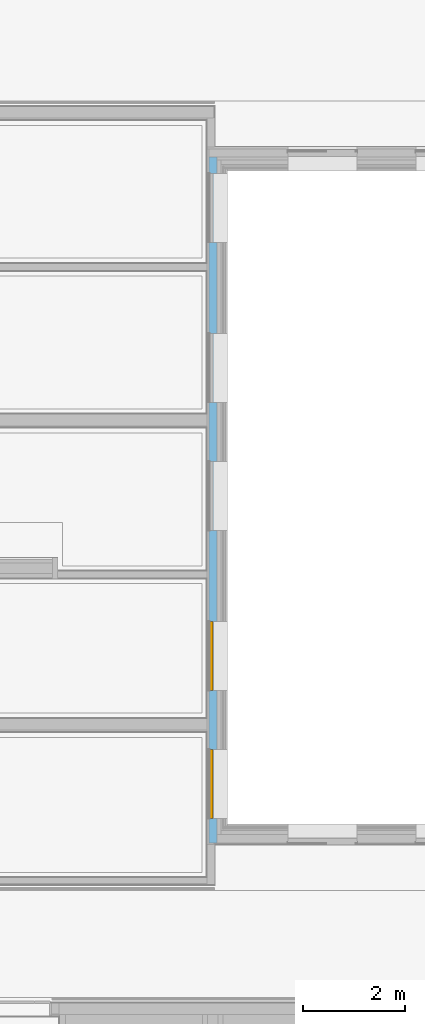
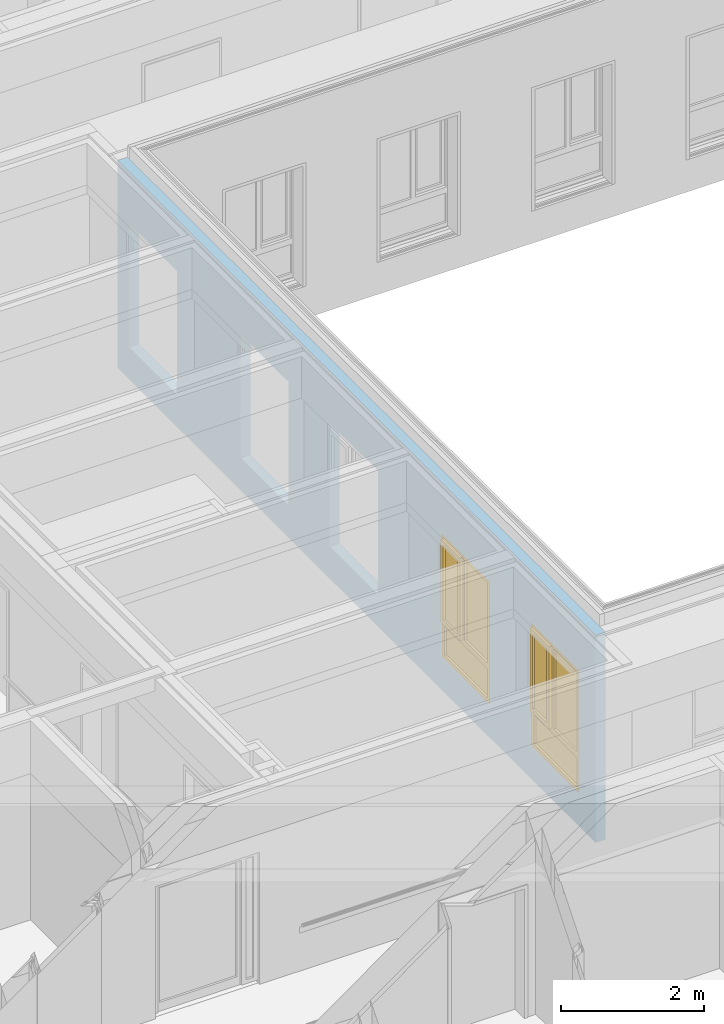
# One storey, part 70 of 222: 2 windows, 5 openings, plus 1 element that does not belong to this part.
"""IFC4 building model written with IfcOpenShell, lengths in metres."""

from ifc_helpers import new_model, entity, si_unit, converted_unit, derived_unit, frame, frame_2d, origin, origin_with_axes, place, context, subcontext, project, spatial, polyline, rectangle, outline, extrude, closed_shell, open_shell, surface_model, source, transform, mapped, material, element, fill, save


model = new_model("IFC4")

# Units and contexts
model_context = context("Model", 3, precision=1e-05, world=origin())
body_context = subcontext(model_context, "Body", "Model", "MODEL_VIEW")
ifc_project = project(units=[si_unit("LENGTHUNIT", "METRE"), si_unit("AREAUNIT", "SQUARE_METRE"), si_unit("VOLUMEUNIT", "CUBIC_METRE"), si_unit("MASSUNIT", "GRAM", prefix="KILO"), converted_unit("PLANEANGLEUNIT", "DEGREE", entity("IfcPlaneAngleMeasure", 0.0174532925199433), si_unit("PLANEANGLEUNIT", "RADIAN"), dimensions=[0, 0, 0, 0, 0, 0, 0]), derived_unit("THERMALTRANSMITTANCEUNIT", [(si_unit("POWERUNIT", "WATT"), 1), (si_unit("THERMODYNAMICTEMPERATUREUNIT", "KELVIN"), -1), (si_unit("LENGTHUNIT", "METRE"), -2)]), derived_unit("VOLUMETRICFLOWRATEUNIT", [(si_unit("LENGTHUNIT", "METRE"), 3), (converted_unit("TIMEUNIT", "hour", entity("IfcTimeMeasure", 3600.0), si_unit("TIMEUNIT", "SECOND"), dimensions=[0, 0, 1, 0, 0, 0, 0]), -1), (si_unit("LENGTHUNIT", "METRE"), -1)])], contexts=[model_context])

# Site, building, storey
site_placement = place(None, origin())
site = spatial("IfcSite", under=ifc_project, at=site_placement, Name="Psychiatrie Neubau Wunstorf", CompositionType="ELEMENT")
building_placement = place(site_placement, origin())
building = spatial("IfcBuilding", under=site, at=building_placement, Name="Neubau H2 Stationsgebäude", CompositionType="ELEMENT")
storey_placement = place(building_placement, frame((0.0, 0.0, 3.6)))
storey = spatial("IfcBuildingStorey", under=building, at=storey_placement, Name="H2 Ebene +1", CompositionType="ELEMENT", Elevation=3.6)

# Wall, openings, windows
ifc_material = material(Name="WA-DL")
wall_placement = place(storey_placement, frame((15.675, 20.8416528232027, 0.0), z_axis=(0.0, 0.0, 1.0), x_axis=(-2.71660179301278e-16, -1.0, 0.0)))
wall = element("IfcWall", 1, at=wall_placement, inside=storey, material=ifc_material, context=body_context, shape_type="SweptSolid", body=[
    extrude(rectangle(XDim=13.3916528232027, YDim=0.16, at=frame_2d((6.69582641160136, 0.08), x_axis=(1.0, 0.0))), origin_with_axes(), (0.0, 0.0, 1.0), 3.55),
])
opening_1_placement = place(wall_placement, frame((4.79165282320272, 0.159999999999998, 0.55), z_axis=(0.0, -1.0, 0.0), x_axis=(0.0, 0.0, 1.0)))
element("IfcOpeningElement", 2, at=opening_1_placement, cuts=wall, Name="Fensteröffnung", ObjectType="Opening", context=body_context, shape_type="SweptSolid", body=[
    extrude(outline(polyline([(2.115, 1.35), (2.115, 0.0), (0.0, 0.0), (0.0, 1.35), (2.115, 1.35)])), origin_with_axes(), (0.0, 0.0, 1.0), 0.16),
])
opening_2_placement = place(wall_placement, frame((7.29165282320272, 0.16, 0.55), z_axis=(0.0, -1.0, 0.0), x_axis=(0.0, 0.0, 1.0)))
element("IfcOpeningElement", 3, at=opening_2_placement, cuts=wall, Name="Fensteröffnung", ObjectType="Opening", context=body_context, shape_type="SweptSolid", body=[
    extrude(outline(polyline([(2.115, 1.35), (2.115, 0.0), (0.0, 0.0), (0.0, 1.35), (2.115, 1.35)])), origin_with_axes(), (0.0, 0.0, 1.0), 0.16),
])
opening_3_placement = place(wall_placement, frame((1.66665282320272, 0.159999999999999, 0.55), z_axis=(0.0, -1.0, 0.0), x_axis=(0.0, 0.0, 1.0)))
element("IfcOpeningElement", 4, at=opening_3_placement, cuts=wall, Name="Fensteröffnung", ObjectType="Opening", context=body_context, shape_type="SweptSolid", body=[
    extrude(outline(polyline([(2.115, 1.35), (2.115, 0.0), (0.0, 0.0), (0.0, 1.35), (2.115, 1.35)])), origin_with_axes(), (0.0, 0.0, 1.0), 0.16),
])
opening_4_placement = place(wall_placement, frame((12.9166528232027, 0.16, 0.55), z_axis=(0.0, -1.0, 0.0), x_axis=(0.0, 0.0, 1.0)))
opening_4 = element("IfcOpeningElement", 5, at=opening_4_placement, cuts=wall, Name="Fensteröffnung", ObjectType="Opening", context=body_context, shape_type="SweptSolid", body=[
    extrude(outline(polyline([(2.115, 1.35), (2.115, 0.0), (0.0, 0.0), (0.0, 1.35), (2.115, 1.35)])), origin_with_axes(), (0.0, 0.0, 1.0), 0.16),
])
opening_5_placement = place(wall_placement, frame((10.4166528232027, 0.160000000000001, 0.55), z_axis=(0.0, -1.0, 0.0), x_axis=(0.0, 0.0, 1.0)))
opening_5 = element("IfcOpeningElement", 6, at=opening_5_placement, cuts=wall, Name="Fensteröffnung", ObjectType="Opening", context=body_context, shape_type="SweptSolid", body=[
    extrude(outline(polyline([(2.115, 1.35), (2.115, 0.0), (0.0, 0.0), (0.0, 1.35), (2.115, 1.35)])), origin_with_axes(), (0.0, 0.0, 1.0), 0.16),
])
shared_shape_1 = source(origin_with_axes(), body_context, "Body", "SurfaceModel", [
    surface_model("IfcShellBasedSurfaceModel", [(0.0, 0.0, 2.115), (0.0700000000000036, 0.0, 2.115), (0.0700000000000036, 0.0, 0.0), (0.0, 0.0, 0.0), (0.0, 0.0699999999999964, 0.0), (0.0700000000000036, 0.0699999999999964, 0.0), (0.0700000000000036, 0.0699999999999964, 2.115), (0.0, 0.0699999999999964, 2.115)], [closed_shell([[[0, 1, 2, 3]], [[4, 5, 6, 7]], [[3, 4, 7, 0]], [[2, 5, 4, 3]], [[1, 6, 5, 2]], [[0, 7, 6, 1]]], orient=[[False], [False], [False], [False], [False], [False]])]),
    surface_model("IfcShellBasedSurfaceModel", [(1.28, 0.0, 2.115), (1.35, 0.0, 2.115), (1.35, 0.0, 0.0), (1.28, 0.0, 0.0), (1.28, 0.0699999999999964, 0.0), (1.35, 0.0699999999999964, 0.0), (1.35, 0.0699999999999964, 2.115), (1.28, 0.0699999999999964, 2.115)], [closed_shell([[[0, 1, 2, 3]], [[4, 5, 6, 7]], [[3, 4, 7, 0]], [[2, 5, 4, 3]], [[1, 6, 5, 2]], [[0, 7, 6, 1]]], orient=[[False], [False], [False], [False], [False], [False]])]),
    surface_model("IfcShellBasedSurfaceModel", [(0.0700000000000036, 0.0, 0.07), (1.28, 0.0, 0.07), (1.28, 0.0, 0.0), (0.0700000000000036, 0.0, 0.0), (0.0700000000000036, 0.0699999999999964, 0.0), (1.28, 0.0699999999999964, 0.0), (1.28, 0.0699999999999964, 0.07), (0.0700000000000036, 0.0699999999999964, 0.07)], [closed_shell([[[0, 1, 2, 3]], [[4, 5, 6, 7]], [[3, 4, 7, 0]], [[2, 5, 4, 3]], [[1, 6, 5, 2]], [[0, 7, 6, 1]]], orient=[[False], [False], [False], [False], [False], [False]])]),
    surface_model("IfcShellBasedSurfaceModel", [(0.0700000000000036, 0.0, 2.115), (1.28, 0.0, 2.115), (1.28, 0.0, 2.045), (0.0700000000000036, 0.0, 2.045), (0.0700000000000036, 0.0699999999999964, 2.045), (1.28, 0.0699999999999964, 2.045), (1.28, 0.0699999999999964, 2.115), (0.0700000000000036, 0.0699999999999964, 2.115)], [closed_shell([[[0, 1, 2, 3]], [[4, 5, 6, 7]], [[3, 4, 7, 0]], [[2, 5, 4, 3]], [[1, 6, 5, 2]], [[0, 7, 6, 1]]], orient=[[False], [False], [False], [False], [False], [False]])]),
    surface_model("IfcShellBasedSurfaceModel", [(0.0700000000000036, 0.0, 0.67), (1.28, 0.0, 0.67), (1.28, 0.0, 0.57), (0.0700000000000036, 0.0, 0.57), (0.0700000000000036, 0.0699999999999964, 0.57), (1.28, 0.0699999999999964, 0.57), (1.28, 0.0699999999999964, 0.67), (0.0700000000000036, 0.0699999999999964, 0.67)], [closed_shell([[[0, 1, 2, 3]], [[4, 5, 6, 7]], [[3, 4, 7, 0]], [[2, 5, 4, 3]], [[1, 6, 5, 2]], [[0, 7, 6, 1]]], orient=[[False], [False], [False], [False], [False], [False]])]),
    surface_model("IfcShellBasedSurfaceModel", [(0.0700000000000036, 0.0349999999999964, 0.07), (0.0700000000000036, 0.0349999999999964, 0.57), (1.28, 0.0349999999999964, 0.57), (1.28, 0.0349999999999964, 0.07)], [open_shell([[[0, 1, 2, 3]]], orient=[[False]])]),
    surface_model("IfcShellBasedSurfaceModel", [(0.565700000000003, 0.0, 2.045), (0.635700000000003, 0.0, 2.045), (0.635700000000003, 0.0, 0.67), (0.565700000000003, 0.0, 0.67), (0.565700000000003, 0.0699999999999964, 0.67), (0.635700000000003, 0.0699999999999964, 0.67), (0.635700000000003, 0.0699999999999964, 2.045), (0.565700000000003, 0.0699999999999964, 2.045)], [closed_shell([[[0, 1, 2, 3]], [[4, 5, 6, 7]], [[3, 4, 7, 0]], [[2, 5, 4, 3]], [[1, 6, 5, 2]], [[0, 7, 6, 1]]], orient=[[False], [False], [False], [False], [False], [False]])]),
    surface_model("IfcShellBasedSurfaceModel", [(0.0500000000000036, -0.0500000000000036, 2.065), (0.120000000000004, -0.0500000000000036, 2.065), (0.120000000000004, -0.0500000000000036, 0.65), (0.0500000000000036, -0.0500000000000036, 0.65), (0.0500000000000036, 0.0199999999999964, 0.65), (0.120000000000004, 0.0199999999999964, 0.65), (0.120000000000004, 0.0199999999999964, 2.065), (0.0500000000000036, 0.0199999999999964, 2.065)], [closed_shell([[[0, 1, 2, 3]], [[4, 5, 6, 7]], [[3, 4, 7, 0]], [[2, 5, 4, 3]], [[1, 6, 5, 2]], [[0, 7, 6, 1]]], orient=[[False], [False], [False], [False], [False], [False]])]),
    surface_model("IfcShellBasedSurfaceModel", [(0.515700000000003, -0.0500000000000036, 2.065), (0.585700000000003, -0.0500000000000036, 2.065), (0.585700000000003, -0.0500000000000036, 0.65), (0.515700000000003, -0.0500000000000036, 0.65), (0.515700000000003, 0.0199999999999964, 0.65), (0.585700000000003, 0.0199999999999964, 0.65), (0.585700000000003, 0.0199999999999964, 2.065), (0.515700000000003, 0.0199999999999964, 2.065)], [closed_shell([[[0, 1, 2, 3]], [[4, 5, 6, 7]], [[3, 4, 7, 0]], [[2, 5, 4, 3]], [[1, 6, 5, 2]], [[0, 7, 6, 1]]], orient=[[False], [False], [False], [False], [False], [False]])]),
    surface_model("IfcShellBasedSurfaceModel", [(0.120000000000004, -0.0500000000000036, 0.72), (0.515700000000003, -0.0500000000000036, 0.72), (0.515700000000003, -0.0500000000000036, 0.65), (0.120000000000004, -0.0500000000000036, 0.65), (0.120000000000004, 0.0199999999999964, 0.65), (0.515700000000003, 0.0199999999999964, 0.65), (0.515700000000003, 0.0199999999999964, 0.72), (0.120000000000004, 0.0199999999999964, 0.72)], [closed_shell([[[0, 1, 2, 3]], [[4, 5, 6, 7]], [[3, 4, 7, 0]], [[2, 5, 4, 3]], [[1, 6, 5, 2]], [[0, 7, 6, 1]]], orient=[[False], [False], [False], [False], [False], [False]])]),
    surface_model("IfcShellBasedSurfaceModel", [(0.120000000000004, -0.0500000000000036, 2.065), (0.515700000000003, -0.0500000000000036, 2.065), (0.515700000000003, -0.0500000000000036, 1.995), (0.120000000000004, -0.0500000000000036, 1.995), (0.120000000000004, 0.0199999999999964, 1.995), (0.515700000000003, 0.0199999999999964, 1.995), (0.515700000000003, 0.0199999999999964, 2.065), (0.120000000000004, 0.0199999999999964, 2.065)], [closed_shell([[[0, 1, 2, 3]], [[4, 5, 6, 7]], [[3, 4, 7, 0]], [[2, 5, 4, 3]], [[1, 6, 5, 2]], [[0, 7, 6, 1]]], orient=[[False], [False], [False], [False], [False], [False]])]),
    surface_model("IfcShellBasedSurfaceModel", [(0.635700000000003, 0.0349999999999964, 0.67), (0.635700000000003, 0.0349999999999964, 2.045), (1.28, 0.0349999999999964, 2.045), (1.28, 0.0349999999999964, 0.67)], [open_shell([[[0, 1, 2, 3]]], orient=[[False]])]),
    surface_model("IfcShellBasedSurfaceModel", [(0.120000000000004, -0.0150000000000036, 0.72), (0.120000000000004, -0.0150000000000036, 1.995), (0.515700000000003, -0.0150000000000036, 1.995), (0.515700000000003, -0.0150000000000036, 0.72)], [open_shell([[[0, 1, 2, 3]]], orient=[[False]])]),
])
window_1_placement = place(opening_4_placement, frame((0.0, 1.35, 0.146), z_axis=(1.0, 0.0, 0.0), x_axis=(0.0, -1.0, -2.71660179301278e-16)))
window_1 = element("IfcWindow", 7, at=window_1_placement, inside=storey, Name="Fenster", OverallHeight=2.115, OverallWidth=1.35, PartitioningType="USERDEFINED", PredefinedType="WINDOW", context=body_context, shape_type="MappedRepresentation", body=[
    mapped(shared_shape_1, transform((0.0, 0.0, 0.0), x_axis=(1.0, 0.0, 0.0), y_axis=(0.0, 1.0, 0.0), z_axis=(0.0, 0.0, 1.0), scale=1.0)),
])
fill(opening_4, window_1)
shared_shape_2 = source(origin_with_axes(), body_context, "Body", "SurfaceModel", [
    surface_model("IfcShellBasedSurfaceModel", [(0.0, 0.0, 2.115), (0.0700000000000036, 0.0, 2.115), (0.0700000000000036, 0.0, 0.0), (0.0, 0.0, 0.0), (0.0, 0.0699999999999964, 0.0), (0.0700000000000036, 0.0699999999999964, 0.0), (0.0700000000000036, 0.0699999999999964, 2.115), (0.0, 0.0699999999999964, 2.115)], [closed_shell([[[0, 1, 2, 3]], [[4, 5, 6, 7]], [[3, 4, 7, 0]], [[2, 5, 4, 3]], [[1, 6, 5, 2]], [[0, 7, 6, 1]]], orient=[[False], [False], [False], [False], [False], [False]])]),
    surface_model("IfcShellBasedSurfaceModel", [(1.28, 0.0, 2.115), (1.35, 0.0, 2.115), (1.35, 0.0, 0.0), (1.28, 0.0, 0.0), (1.28, 0.0699999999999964, 0.0), (1.35, 0.0699999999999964, 0.0), (1.35, 0.0699999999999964, 2.115), (1.28, 0.0699999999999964, 2.115)], [closed_shell([[[0, 1, 2, 3]], [[4, 5, 6, 7]], [[3, 4, 7, 0]], [[2, 5, 4, 3]], [[1, 6, 5, 2]], [[0, 7, 6, 1]]], orient=[[False], [False], [False], [False], [False], [False]])]),
    surface_model("IfcShellBasedSurfaceModel", [(0.0700000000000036, 0.0, 0.07), (1.28, 0.0, 0.07), (1.28, 0.0, 0.0), (0.0700000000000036, 0.0, 0.0), (0.0700000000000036, 0.0699999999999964, 0.0), (1.28, 0.0699999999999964, 0.0), (1.28, 0.0699999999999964, 0.07), (0.0700000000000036, 0.0699999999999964, 0.07)], [closed_shell([[[0, 1, 2, 3]], [[4, 5, 6, 7]], [[3, 4, 7, 0]], [[2, 5, 4, 3]], [[1, 6, 5, 2]], [[0, 7, 6, 1]]], orient=[[False], [False], [False], [False], [False], [False]])]),
    surface_model("IfcShellBasedSurfaceModel", [(0.0700000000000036, 0.0, 2.115), (1.28, 0.0, 2.115), (1.28, 0.0, 2.045), (0.0700000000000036, 0.0, 2.045), (0.0700000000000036, 0.0699999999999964, 2.045), (1.28, 0.0699999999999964, 2.045), (1.28, 0.0699999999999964, 2.115), (0.0700000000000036, 0.0699999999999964, 2.115)], [closed_shell([[[0, 1, 2, 3]], [[4, 5, 6, 7]], [[3, 4, 7, 0]], [[2, 5, 4, 3]], [[1, 6, 5, 2]], [[0, 7, 6, 1]]], orient=[[False], [False], [False], [False], [False], [False]])]),
    surface_model("IfcShellBasedSurfaceModel", [(0.0700000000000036, 0.0, 0.67), (1.28, 0.0, 0.67), (1.28, 0.0, 0.57), (0.0700000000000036, 0.0, 0.57), (0.0700000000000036, 0.0699999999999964, 0.57), (1.28, 0.0699999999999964, 0.57), (1.28, 0.0699999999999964, 0.67), (0.0700000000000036, 0.0699999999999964, 0.67)], [closed_shell([[[0, 1, 2, 3]], [[4, 5, 6, 7]], [[3, 4, 7, 0]], [[2, 5, 4, 3]], [[1, 6, 5, 2]], [[0, 7, 6, 1]]], orient=[[False], [False], [False], [False], [False], [False]])]),
    surface_model("IfcShellBasedSurfaceModel", [(0.0700000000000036, 0.0349999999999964, 0.07), (0.0700000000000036, 0.0349999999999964, 0.57), (1.28, 0.0349999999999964, 0.57), (1.28, 0.0349999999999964, 0.07)], [open_shell([[[0, 1, 2, 3]]], orient=[[False]])]),
    surface_model("IfcShellBasedSurfaceModel", [(0.565700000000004, 0.0, 2.045), (0.635700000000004, 0.0, 2.045), (0.635700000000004, 0.0, 0.67), (0.565700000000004, 0.0, 0.67), (0.565700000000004, 0.0699999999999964, 0.67), (0.635700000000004, 0.0699999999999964, 0.67), (0.635700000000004, 0.0699999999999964, 2.045), (0.565700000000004, 0.0699999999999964, 2.045)], [closed_shell([[[0, 1, 2, 3]], [[4, 5, 6, 7]], [[3, 4, 7, 0]], [[2, 5, 4, 3]], [[1, 6, 5, 2]], [[0, 7, 6, 1]]], orient=[[False], [False], [False], [False], [False], [False]])]),
    surface_model("IfcShellBasedSurfaceModel", [(0.0500000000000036, -0.0500000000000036, 2.065), (0.120000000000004, -0.0500000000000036, 2.065), (0.120000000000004, -0.0500000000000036, 0.65), (0.0500000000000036, -0.0500000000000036, 0.65), (0.0500000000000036, 0.0199999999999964, 0.65), (0.120000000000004, 0.0199999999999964, 0.65), (0.120000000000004, 0.0199999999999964, 2.065), (0.0500000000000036, 0.0199999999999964, 2.065)], [closed_shell([[[0, 1, 2, 3]], [[4, 5, 6, 7]], [[3, 4, 7, 0]], [[2, 5, 4, 3]], [[1, 6, 5, 2]], [[0, 7, 6, 1]]], orient=[[False], [False], [False], [False], [False], [False]])]),
    surface_model("IfcShellBasedSurfaceModel", [(0.515700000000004, -0.0500000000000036, 2.065), (0.585700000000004, -0.0500000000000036, 2.065), (0.585700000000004, -0.0500000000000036, 0.65), (0.515700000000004, -0.0500000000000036, 0.65), (0.515700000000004, 0.0199999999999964, 0.65), (0.585700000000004, 0.0199999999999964, 0.65), (0.585700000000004, 0.0199999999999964, 2.065), (0.515700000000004, 0.0199999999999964, 2.065)], [closed_shell([[[0, 1, 2, 3]], [[4, 5, 6, 7]], [[3, 4, 7, 0]], [[2, 5, 4, 3]], [[1, 6, 5, 2]], [[0, 7, 6, 1]]], orient=[[False], [False], [False], [False], [False], [False]])]),
    surface_model("IfcShellBasedSurfaceModel", [(0.120000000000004, -0.0500000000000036, 0.72), (0.515700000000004, -0.0500000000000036, 0.72), (0.515700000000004, -0.0500000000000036, 0.65), (0.120000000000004, -0.0500000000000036, 0.65), (0.120000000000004, 0.0199999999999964, 0.65), (0.515700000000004, 0.0199999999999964, 0.65), (0.515700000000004, 0.0199999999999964, 0.72), (0.120000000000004, 0.0199999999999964, 0.72)], [closed_shell([[[0, 1, 2, 3]], [[4, 5, 6, 7]], [[3, 4, 7, 0]], [[2, 5, 4, 3]], [[1, 6, 5, 2]], [[0, 7, 6, 1]]], orient=[[False], [False], [False], [False], [False], [False]])]),
    surface_model("IfcShellBasedSurfaceModel", [(0.120000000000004, -0.0500000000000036, 2.065), (0.515700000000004, -0.0500000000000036, 2.065), (0.515700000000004, -0.0500000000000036, 1.995), (0.120000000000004, -0.0500000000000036, 1.995), (0.120000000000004, 0.0199999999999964, 1.995), (0.515700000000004, 0.0199999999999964, 1.995), (0.515700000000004, 0.0199999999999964, 2.065), (0.120000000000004, 0.0199999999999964, 2.065)], [closed_shell([[[0, 1, 2, 3]], [[4, 5, 6, 7]], [[3, 4, 7, 0]], [[2, 5, 4, 3]], [[1, 6, 5, 2]], [[0, 7, 6, 1]]], orient=[[False], [False], [False], [False], [False], [False]])]),
    surface_model("IfcShellBasedSurfaceModel", [(0.635700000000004, 0.0349999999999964, 0.67), (0.635700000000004, 0.0349999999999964, 2.045), (1.28, 0.0349999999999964, 2.045), (1.28, 0.0349999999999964, 0.67)], [open_shell([[[0, 1, 2, 3]]], orient=[[False]])]),
    surface_model("IfcShellBasedSurfaceModel", [(0.120000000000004, -0.0150000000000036, 0.72), (0.120000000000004, -0.0150000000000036, 1.995), (0.515700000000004, -0.0150000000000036, 1.995), (0.515700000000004, -0.0150000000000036, 0.72)], [open_shell([[[0, 1, 2, 3]]], orient=[[False]])]),
])
window_2_placement = place(opening_5_placement, frame((0.0, 1.35, 0.146), z_axis=(1.0, 0.0, 0.0), x_axis=(0.0, -1.0, -2.71660179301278e-16)))
window_2 = element("IfcWindow", 8, at=window_2_placement, inside=storey, Name="Fenster", OverallHeight=2.115, OverallWidth=1.35, PartitioningType="USERDEFINED", PredefinedType="WINDOW", context=body_context, shape_type="MappedRepresentation", body=[
    mapped(shared_shape_2, transform((0.0, 0.0, 0.0), x_axis=(1.0, 0.0, 0.0), y_axis=(0.0, 1.0, 0.0), z_axis=(0.0, 0.0, 1.0), scale=1.0)),
])
fill(opening_5, window_2)

save(model, "model.ifc")
